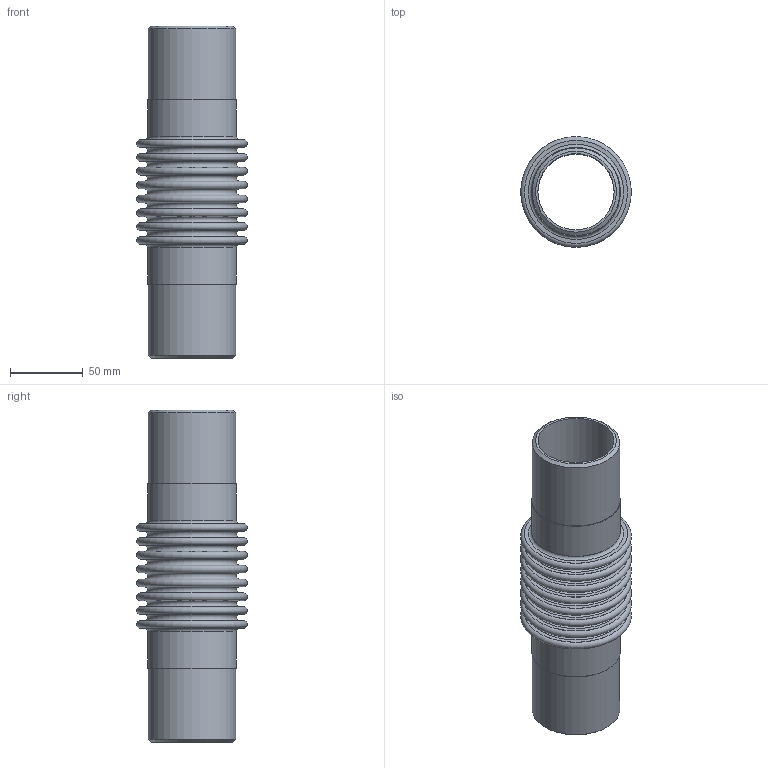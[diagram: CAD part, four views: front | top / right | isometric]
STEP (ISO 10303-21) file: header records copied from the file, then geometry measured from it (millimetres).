
FILE_DESCRIPTION(/* description */ (''),/* implementation_level */ '2;1');
FILE_NAME(/* name */ 'PIPE-2- 85 PSIG.stp',/* time_stamp */ '2026-07-23T09:22:33-05:00',/* author */ ('jorgef'),/* organization */ (''),/* preprocessor_version */ 'ST-DEVELOPER v20.1',/* originating_system */ 'Autodesk Inventor 2026',/* authorisation */ '');
FILE_SCHEMA (('AUTOMOTIVE_DESIGN { 1 0 10303 214 3 1 1 }'));
Length unit declared in the file: inch
Products named in the file (1): PIPE- 2 - 85 PSIG ASSEMBLY PART
Bounding box: 76.2 x 76.2 x 228.6 mm (x, y, z)
Volume: 125319.6 mm3; surface area: 126645.9 mm2
Topology: 1 solids, 1 shells, 80 faces, 126 edges, 84 vertices
Faces by surface type: plane 38, torus 34, cylinder 6, cone 2
Full cylindrical faces by diameter (mm): 52.502 x2, 60.325 x2, 61.239 x2
Entity records: 2035 total; most frequent: DIRECTION 406, CARTESIAN_POINT 291, ORIENTED_EDGE 252, AXIS2_PLACEMENT_3D 199, EDGE_CURVE 126, EDGE_LOOP 118, CIRCLE 118, VERTEX_POINT 84
